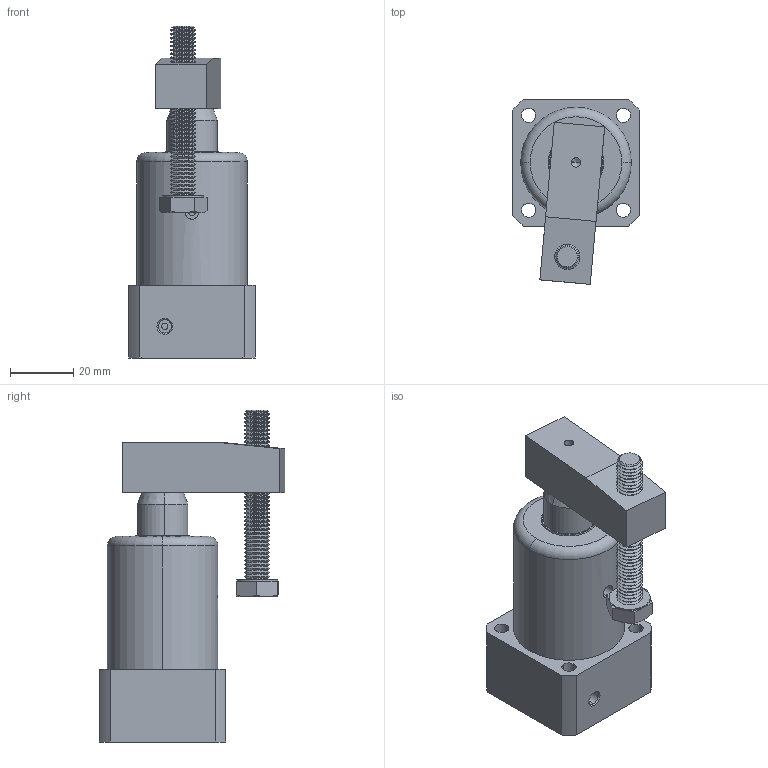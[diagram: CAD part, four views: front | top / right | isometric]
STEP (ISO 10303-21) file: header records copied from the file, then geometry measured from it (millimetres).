
FILE_DESCRIPTION (( 'STEP AP214' ), '1' );
FILE_NAME ('AS1_25.STEP', '2018-12-10T08:33:28', ( '' ), ( '' ), 'SwSTEP 2.0', 'SolidWorks 2018', '' );
FILE_SCHEMA (( 'AUTOMOTIVE_DESIGN' ));
Length unit declared in the file: millimetre
Products named in the file (9): DISMÝL; KANALLIMÝL_tekparca; bilya; altýkose_cývata; AS1_25; ust_pabuc_kýsatip_25; BORU_2; bogazkecesi; silkeçesi
Assembly tree (9 placements, depth 2):
  AS1_25
    BORU_2
    DISMÝL
    KANALLIMÝL_tekparca
    silkeçesi
    bogazkecesi
    bilya  x2
    ust_pabuc_kýsatip_25
    altýkose_cývata
Bounding box: 40 x 58.57 x 104.99 mm (x, y, z)
Volume: 77227.6 mm3; surface area: 37345.3 mm2
Topology: 9 solids, 9 shells, 763 faces, 1639 edges, 912 vertices
Faces by surface type: cone 249, cylinder 228, torus 186, plane 69, bspline 16, sphere 15
Entity records: 22424 total; most frequent: CARTESIAN_POINT 5059, DIRECTION 4036, ORIENTED_EDGE 3222, AXIS2_PLACEMENT_3D 1759, EDGE_CURVE 1611, CIRCLE 1002, VERTEX_POINT 904, EDGE_LOOP 829
